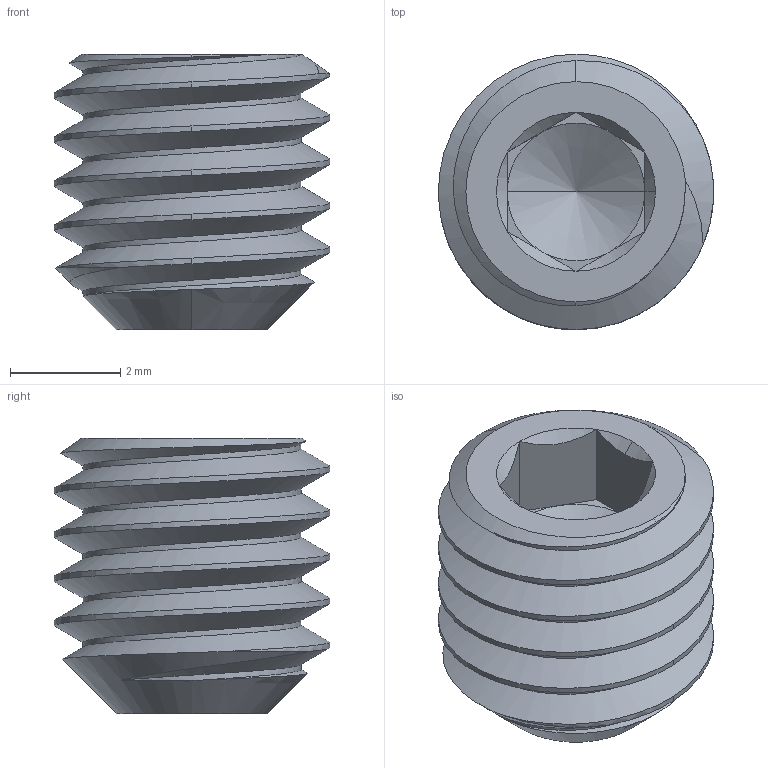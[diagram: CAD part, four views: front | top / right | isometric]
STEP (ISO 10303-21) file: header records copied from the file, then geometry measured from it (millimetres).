
FILE_DESCRIPTION (( 'STEP AP203' ), '1' );
FILE_NAME ('2806-0004-0005.STEP', '2017-04-05T21:00:54', ( '' ), ( '' ), 'SwSTEP 2.0', 'SolidWorks 2016', '' );
FILE_SCHEMA (( 'CONFIG_CONTROL_DESIGN' ));
Length unit declared in the file: millimetre
Products named in the file (1): 2806-0004-0005
Bounding box: 5 x 5 x 5 mm (x, y, z)
Volume: 62.7 mm3; surface area: 148.6 mm2
Topology: 1 solids, 1 shells, 42 faces, 101 edges, 58 vertices
Faces by surface type: cone 16, plane 13, cylinder 10, bspline 3
Entity records: 2336 total; most frequent: CARTESIAN_POINT 1412, ORIENTED_EDGE 194, DIRECTION 156, EDGE_CURVE 97, AXIS2_PLACEMENT_3D 60, VERTEX_POINT 58, EDGE_LOOP 43, FACE_OUTER_BOUND 42
